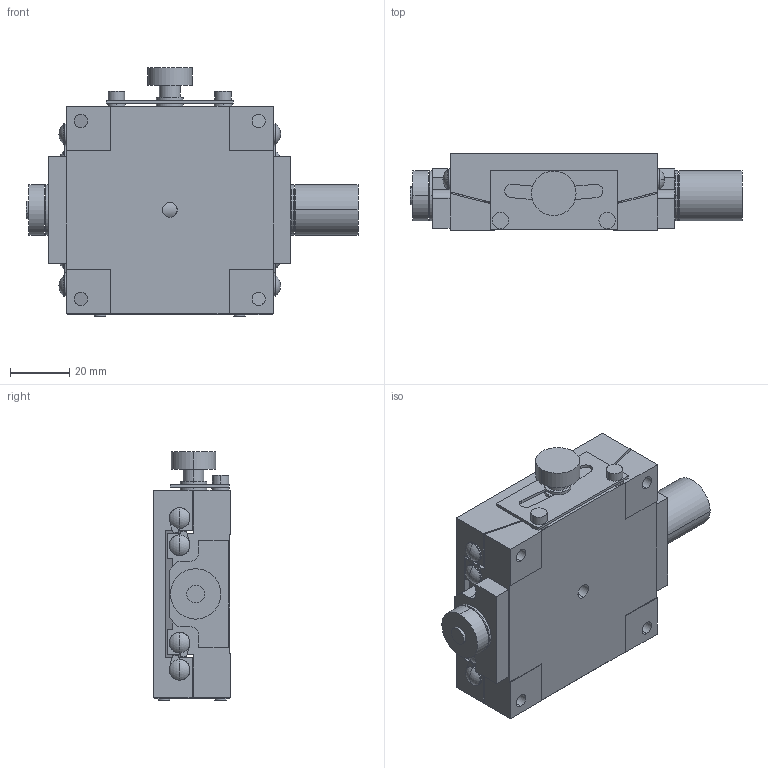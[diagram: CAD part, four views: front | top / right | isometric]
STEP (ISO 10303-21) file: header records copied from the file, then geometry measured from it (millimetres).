
FILE_DESCRIPTION (( 'STEP AP203' ), '1' );
FILE_NAME ('B56-70LR.STEP', '2024-01-25T06:01:53', ( '' ), ( '' ), 'SwSTEP 2.0', 'SolidWorks 2017', '' );
FILE_SCHEMA (( 'CONFIG_CONTROL_DESIGN' ));
Length unit declared in the file: millimetre
Products named in the file (3): B56-70L_T; B56-70LR_B; B56-70LR
Assembly tree (2 placements, depth 2):
  B56-70LR
    B56-70LR_B
    B56-70L_T
Bounding box: 112 x 26 x 83.9 mm (x, y, z)
Volume: 134729.2 mm3; surface area: 38463.6 mm2
Topology: 2 solids, 28 shells, 511 faces, 1196 edges, 755 vertices
Faces by surface type: cylinder 255, plane 186, cone 50, sphere 16, bspline 4
Entity records: 15347 total; most frequent: CARTESIAN_POINT 3005, DIRECTION 2712, ORIENTED_EDGE 2316, EDGE_CURVE 1158, AXIS2_PLACEMENT_3D 1058, VERTEX_POINT 755, EDGE_LOOP 611, VECTOR 596
